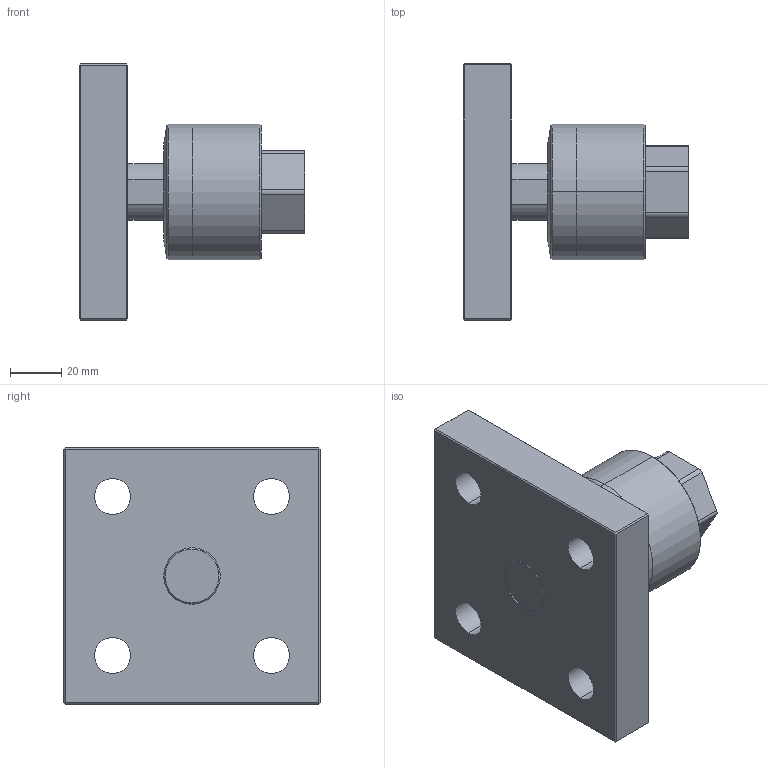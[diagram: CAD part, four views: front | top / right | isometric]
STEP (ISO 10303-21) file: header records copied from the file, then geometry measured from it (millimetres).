
FILE_DESCRIPTION (( 'STEP AP203' ), '1' );
FILE_NAME ('FCM22A-1.5-F.STEP', '2016-04-14T01:59:32', ( '' ), ( '' ), 'SwSTEP 2.0', 'SolidWorks 2014', '' );
FILE_SCHEMA (( 'CONFIG_CONTROL_DESIGN' ));
Length unit declared in the file: millimetre
Products named in the file (3): FCM22A-1.5-F; FCM22A-1.5(F); FCM22A-F
Assembly tree (2 placements, depth 2):
  FCM22A-1.5-F
    FCM22A-1.5(F)
    FCM22A-F
Bounding box: 88 x 100 x 100 mm (x, y, z)
Volume: 275467.1 mm3; surface area: 45891.9 mm2
Topology: 2 solids, 2 shells, 82 faces, 186 edges, 109 vertices
Faces by surface type: plane 44, cylinder 28, cone 10
Entity records: 2569 total; most frequent: DIRECTION 422, CARTESIAN_POINT 380, ORIENTED_EDGE 368, EDGE_CURVE 184, AXIS2_PLACEMENT_3D 151, LINE 120, VECTOR 120, VERTEX_POINT 109
